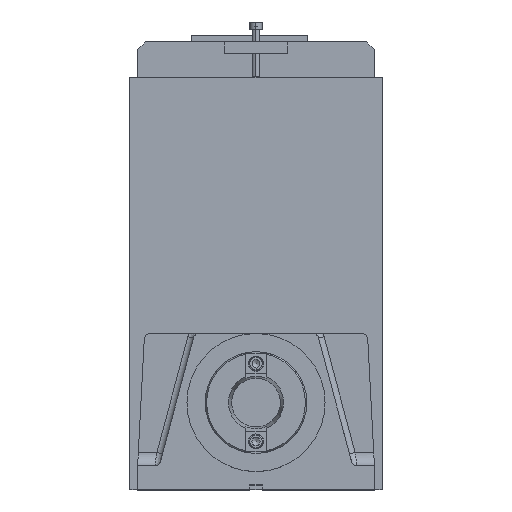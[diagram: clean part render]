
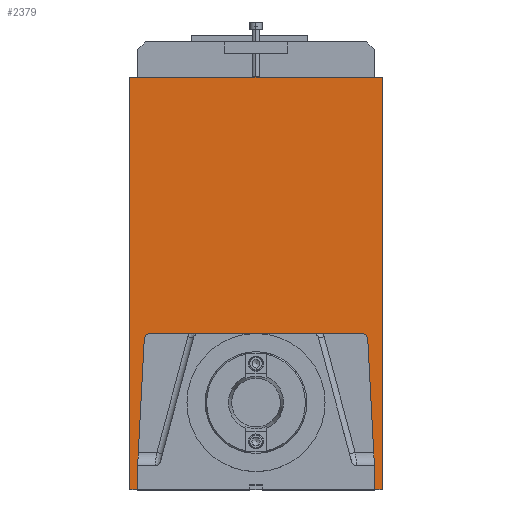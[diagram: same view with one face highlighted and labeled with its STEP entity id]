
A CAD part, top view. The second image highlights one B-rep face of the part: STEP entity #2379.
In plain terms, the highlighted planar face has unit normal (0, 0, 1).
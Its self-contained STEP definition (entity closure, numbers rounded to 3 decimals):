
#2274=CARTESIAN_POINT('',(0.,152.,0.0));
#2275=DIRECTION('',(0.0,0.0,1.0));
#2276=DIRECTION('',(1.0,0.0,0.0));
#2277=AXIS2_PLACEMENT_3D('',#2274,#2275,#2276);
#2278=PLANE('',#2277);
#2279=CARTESIAN_POINT('',(-150.0,-80.0,0.0));
#2280=VERTEX_POINT('',#2279);
#2281=CARTESIAN_POINT('',(-150.0,-109.,0.0));
#2282=VERTEX_POINT('',#2281);
#2283=CARTESIAN_POINT('',(-150.0,-80.0,0.0));
#2284=DIRECTION('',(0.0,-1.0,0.0));
#2285=VECTOR('',#2284,29.);
#2286=LINE('',#2283,#2285);
#2287=EDGE_CURVE('',#2280,#2282,#2286,.T.);
#2288=ORIENTED_EDGE('',*,*,#2287,.F.);
#2289=CARTESIAN_POINT('',(-141.568,80.893,0.0));
#2290=VERTEX_POINT('',#2289);
#2291=CARTESIAN_POINT('',(-150.0,-80.0,0.0));
#2292=DIRECTION('',(0.052,0.999,0.0));
#2293=VECTOR('',#2292,161.113);
#2294=LINE('',#2291,#2293);
#2295=EDGE_CURVE('',#2280,#2290,#2294,.T.);
#2296=ORIENTED_EDGE('',*,*,#2295,.T.);
#2297=CARTESIAN_POINT('',(-134.078,88.,0.0));
#2298=VERTEX_POINT('',#2297);
#2299=CARTESIAN_POINT('',(-134.078,80.5,0.0));
#2300=DIRECTION('',(0.0,0.0,1.));
#2301=DIRECTION('',(-0.688,0.725,0.0));
#2302=AXIS2_PLACEMENT_3D('',#2299,#2300,#2301);
#2303=CIRCLE('',#2302,7.5);
#2304=EDGE_CURVE('',#2298,#2290,#2303,.T.);
#2305=ORIENTED_EDGE('',*,*,#2304,.F.);
#2306=CARTESIAN_POINT('',(134.078,88.0,0.0));
#2307=VERTEX_POINT('',#2306);
#2308=CARTESIAN_POINT('',(-134.078,88.,0.0));
#2309=DIRECTION('',(1.0,0.0,0.0));
#2310=VECTOR('',#2309,268.157);
#2311=LINE('',#2308,#2310);
#2312=EDGE_CURVE('',#2298,#2307,#2311,.T.);
#2313=ORIENTED_EDGE('',*,*,#2312,.T.);
#2314=CARTESIAN_POINT('',(141.568,80.893,0.0));
#2315=VERTEX_POINT('',#2314);
#2316=CARTESIAN_POINT('',(134.078,80.5,0.0));
#2317=DIRECTION('',(0.0,0.0,1.));
#2318=DIRECTION('',(0.688,0.725,0.0));
#2319=AXIS2_PLACEMENT_3D('',#2316,#2317,#2318);
#2320=CIRCLE('',#2319,7.5);
#2321=EDGE_CURVE('',#2315,#2307,#2320,.T.);
#2322=ORIENTED_EDGE('',*,*,#2321,.F.);
#2323=CARTESIAN_POINT('',(150.0,-80.0,0.0));
#2324=VERTEX_POINT('',#2323);
#2325=CARTESIAN_POINT('',(141.568,80.893,0.0));
#2326=DIRECTION('',(0.052,-0.999,0.0));
#2327=VECTOR('',#2326,161.113);
#2328=LINE('',#2325,#2327);
#2329=EDGE_CURVE('',#2315,#2324,#2328,.T.);
#2330=ORIENTED_EDGE('',*,*,#2329,.T.);
#2331=CARTESIAN_POINT('',(150.0,-109.,0.0));
#2332=VERTEX_POINT('',#2331);
#2333=CARTESIAN_POINT('',(150.0,-109.,0.0));
#2334=DIRECTION('',(0.0,1.0,0.0));
#2335=VECTOR('',#2334,29.);
#2336=LINE('',#2333,#2335);
#2337=EDGE_CURVE('',#2332,#2324,#2336,.T.);
#2338=ORIENTED_EDGE('',*,*,#2337,.F.);
#2339=CARTESIAN_POINT('',(160.0,-109.,0.0));
#2340=VERTEX_POINT('',#2339);
#2341=CARTESIAN_POINT('',(160.0,-109.,0.0));
#2342=DIRECTION('',(-1.0,0.0,0.0));
#2343=VECTOR('',#2342,10.0);
#2344=LINE('',#2341,#2343);
#2345=EDGE_CURVE('',#2340,#2332,#2344,.T.);
#2346=ORIENTED_EDGE('',*,*,#2345,.F.);
#2347=CARTESIAN_POINT('',(160.,413.0,0.0));
#2348=VERTEX_POINT('',#2347);
#2349=CARTESIAN_POINT('',(160.,413.0,0.0));
#2350=DIRECTION('',(0.0,-1.0,0.0));
#2351=VECTOR('',#2350,522.0);
#2352=LINE('',#2349,#2351);
#2353=EDGE_CURVE('',#2348,#2340,#2352,.T.);
#2354=ORIENTED_EDGE('',*,*,#2353,.F.);
#2355=CARTESIAN_POINT('',(-160.,413.0,0.0));
#2356=VERTEX_POINT('',#2355);
#2357=CARTESIAN_POINT('',(-160.,413.0,0.0));
#2358=DIRECTION('',(1.0,0.0,0.0));
#2359=VECTOR('',#2358,320.);
#2360=LINE('',#2357,#2359);
#2361=EDGE_CURVE('',#2356,#2348,#2360,.T.);
#2362=ORIENTED_EDGE('',*,*,#2361,.F.);
#2363=CARTESIAN_POINT('',(-160.0,-109.,0.0));
#2364=VERTEX_POINT('',#2363);
#2365=CARTESIAN_POINT('',(-160.0,-109.,0.0));
#2366=DIRECTION('',(0.0,1.0,0.0));
#2367=VECTOR('',#2366,522.0);
#2368=LINE('',#2365,#2367);
#2369=EDGE_CURVE('',#2364,#2356,#2368,.T.);
#2370=ORIENTED_EDGE('',*,*,#2369,.F.);
#2371=CARTESIAN_POINT('',(-150.0,-109.,0.0));
#2372=DIRECTION('',(-1.0,0.0,0.0));
#2373=VECTOR('',#2372,10.0);
#2374=LINE('',#2371,#2373);
#2375=EDGE_CURVE('',#2282,#2364,#2374,.T.);
#2376=ORIENTED_EDGE('',*,*,#2375,.F.);
#2377=EDGE_LOOP('',(#2288,#2296,#2305,#2313,#2322,#2330,#2338,#2346,#2354,#2362,#2370,#2376));
#2378=FACE_OUTER_BOUND('',#2377,.T.);
#2379=ADVANCED_FACE('',(#2378),#2278,.T.);
